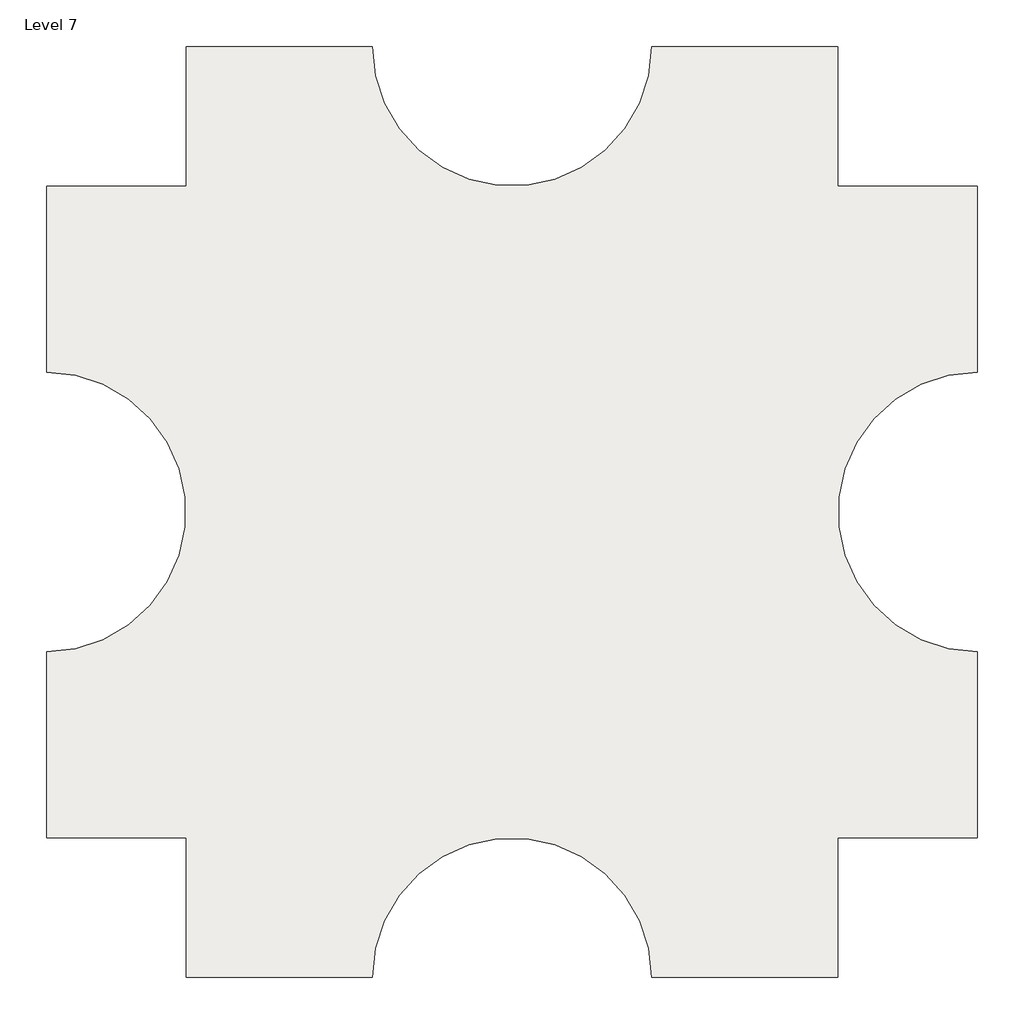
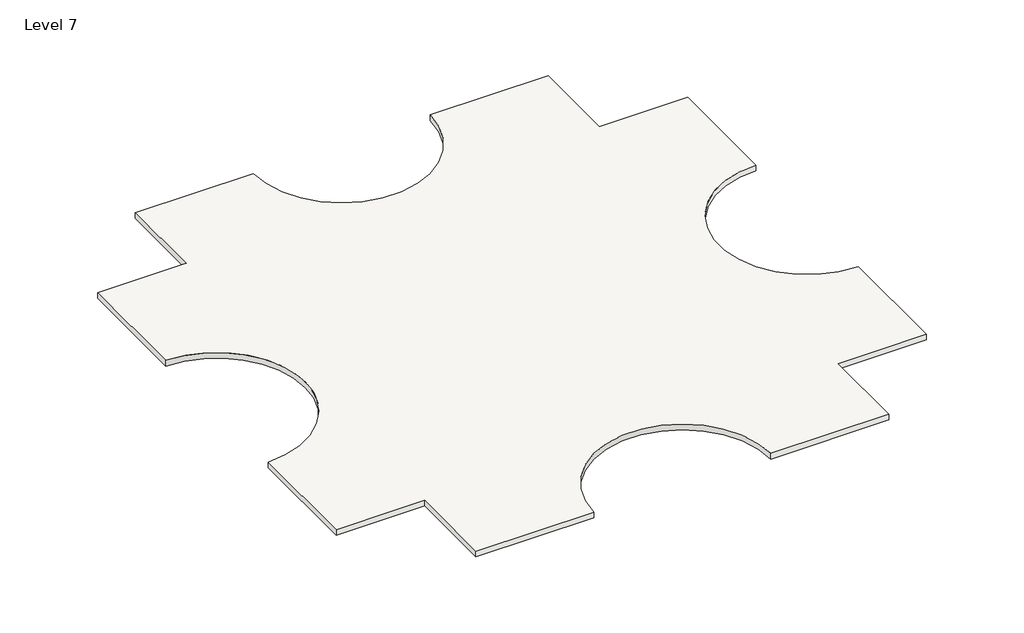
# One storey: 1 slab.
"""IFC4 building model written with IfcOpenShell, lengths in millimetres."""

import ifcopenshell
import ifcopenshell.guid

model = None  # the IFC model being written
_history = None  # IfcOwnerHistory: only IFC2X3 demands one
_inside = {}  # id of a spatial element -> (the spatial element, [elements in it])
_under = {}  # id of a project, library or spatial element -> (it, [spatial elements below it])
_declared = {}  # id of a project -> (the project, [libraries it declares])
_typed = {}  # id of a type object -> (the type object, [elements of that type])
_made_of = {}  # id of a material, layer set ... -> (it, [elements and type objects made of it])


def new_model(schema):
    """Start an empty IFC model of exactly this schema.

    Asked for "IFC4X3", IfcOpenShell would pick the latest addendum, in which some entities
    have other attributes; the version numbers below select the first issue.
    IFC2X3 requires an IfcOwnerHistory on every rooted entity: one is made here for all.
    """
    global model, _history
    if schema == "IFC4X3":
        model = ifcopenshell.file(schema_version=(4, 3, 0, 0))
    else:
        model = ifcopenshell.file(schema=schema)
    _inside.clear()
    _under.clear()
    _declared.clear()
    _typed.clear()
    _made_of.clear()
    _history = None
    if model.schema == "IFC2X3":
        org = make("IfcOrganization", Name="unknown")
        user = make(
            "IfcPersonAndOrganization",
            ThePerson=make("IfcPerson", FamilyName="unknown"),
            TheOrganization=org,
        )
        app = make(
            "IfcApplication",
            ApplicationDeveloper=org,
            Version="unknown",
            ApplicationFullName="unknown",
            ApplicationIdentifier="unknown",
        )
        _history = make(
            "IfcOwnerHistory",
            OwningUser=user,
            OwningApplication=app,
            ChangeAction="ADDED",
            CreationDate=0,
        )
    return model


def make(cls, **values):
    """One entity of the class cls with the attributes given. An attribute that is None is left unset."""
    return model.create_entity(
        cls, **{name: value for name, value in values.items() if value is not None}
    )


def rooted(cls, **values):
    """An entity with a GlobalId (a new one), such as an element, a storey or a relation."""
    return make(cls, GlobalId=ifcopenshell.guid.new(), OwnerHistory=_history, **values)


def si_unit(unit_type, name, prefix=None):
    """IfcSIUnit, for example si_unit("LENGTHUNIT", "METRE", prefix="MILLI")."""
    return make("IfcSIUnit", UnitType=unit_type, Prefix=prefix, Name=name)


def assignment(units):
    """IfcUnitAssignment: the units of a project."""
    return None if units is None else make("IfcUnitAssignment", Units=units)


def point(xyz):
    """IfcCartesianPoint."""
    return None if xyz is None else make("IfcCartesianPoint", Coordinates=xyz)


def direction(xyz):
    """IfcDirection."""
    return None if xyz is None else make("IfcDirection", DirectionRatios=xyz)


def frame(location, z_axis=None, x_axis=None):
    """IfcAxis2Placement3D, a coordinate frame: its origin and axes. An axis left out is left unset."""
    return make(
        "IfcAxis2Placement3D",
        Location=point(location),
        Axis=direction(z_axis),
        RefDirection=direction(x_axis),
    )


def frame_2d(location, x_axis=None):
    """IfcAxis2Placement2D, a coordinate frame in the plane: its origin and x axis."""
    return make(
        "IfcAxis2Placement2D", Location=point(location), RefDirection=direction(x_axis)
    )


def origin():
    """The frame at (0, 0, 0) with its axes left unset."""
    return frame((0.0, 0.0, 0.0))


def place(relative_to, where):
    """IfcLocalPlacement: puts the frame where relative to a parent placement (None: the world)."""
    return make(
        "IfcLocalPlacement", PlacementRelTo=relative_to, RelativePlacement=where
    )


def context(
    kind, dimensions, precision=None, world=None, true_north=None, identifier=None
):
    """IfcGeometricRepresentationContext, for example the 3D "Model" context."""
    return make(
        "IfcGeometricRepresentationContext",
        ContextIdentifier=identifier,
        ContextType=kind,
        CoordinateSpaceDimension=dimensions,
        Precision=precision,
        WorldCoordinateSystem=world,
        TrueNorth=true_north,
    )


def project(units=None, contexts=None):
    """IfcProject with its units and contexts."""
    return rooted(
        "IfcProject",
        Name="project",
        RepresentationContexts=contexts,
        UnitsInContext=assignment(units),
    )


def spatial(cls, under=None, at=None, **own):
    """A site, building, storey or space (cls), placed at a placement, below another one or the project."""
    s = rooted(cls, ObjectPlacement=at, **own)
    if under is not None:
        _under.setdefault(under.id(), (under, []))[1].append(s)
    return s


def polyline(points):
    """IfcPolyline through the points."""
    return make("IfcPolyline", Points=[point(p) for p in points])


def circle_curve(where, radius):
    """IfcCircle in the frame where."""
    return make("IfcCircle", Position=where, Radius=radius)


def trimmed(basis, trim1, trim2, sense, master):
    """IfcTrimmedCurve: the piece of a basis curve between two trims."""
    return make(
        "IfcTrimmedCurve",
        BasisCurve=basis,
        Trim1=trim1,
        Trim2=trim2,
        SenseAgreement=sense,
        MasterRepresentation=master,
    )


def segment(curve, same_sense, transition):
    """IfcCompositeCurveSegment."""
    return make(
        "IfcCompositeCurveSegment",
        Transition=transition,
        SameSense=same_sense,
        ParentCurve=curve,
    )


def composite_curve(segments, self_intersect=None):
    """IfcCompositeCurve: segments joined end to end."""
    return make("IfcCompositeCurve", Segments=segments, SelfIntersect=self_intersect)


def outline(outer, holes=None, kind="AREA"):
    """IfcArbitraryClosedProfileDef: a profile drawn as a closed curve; with holes, ...WithVoids."""
    if holes is None:
        return make("IfcArbitraryClosedProfileDef", ProfileType=kind, OuterCurve=outer)
    return make(
        "IfcArbitraryProfileDefWithVoids",
        ProfileType=kind,
        OuterCurve=outer,
        InnerCurves=holes,
    )


def extrude(swept, where, along, depth):
    """IfcExtrudedAreaSolid: the profile swept, set in the frame where, extruded along a direction by depth."""
    return make(
        "IfcExtrudedAreaSolid",
        SweptArea=swept,
        Position=where,
        ExtrudedDirection=direction(along),
        Depth=depth,
    )


def shape(context_of_items, identifier, shape_type, items):
    """IfcShapeRepresentation: the items that make up one representation, for example the "Body"."""
    return make(
        "IfcShapeRepresentation",
        ContextOfItems=context_of_items,
        RepresentationIdentifier=identifier,
        RepresentationType=shape_type,
        Items=items,
    )


def made_of(thing, what):
    """Note that an element or type object is made of a material, layer set ...; save() writes the relation."""
    if what is not None:
        _made_of.setdefault(what.id(), (what, []))[1].append(thing)
    return thing


def element(
    cls,
    number,
    at=None,
    inside=None,
    cuts=None,
    type_object=None,
    material=None,
    context=None,
    identifier="Body",
    shape_type=None,
    held_by="IfcProductDefinitionShape",
    body=None,
    shapes=None,
    **own,
):
    """One element of the class cls, such as IfcWall. Its Tag is "e" and its number.

    at: its placement. inside: the storey or other place that contains it. cuts: it is an
    opening in that element (IfcRelVoidsElement). A single representation is given by context,
    identifier, shape_type and body (its items); several are given by shapes. held_by: the class
    of the entity that holds the representations. save() writes the other relations.
    """
    e = rooted(cls, Tag="e%d" % number, ObjectPlacement=at, **own)
    if body is not None:
        shapes = [shape(context, identifier, shape_type, body)]
    if shapes is not None:
        e.Representation = make(held_by, Representations=shapes)
    if inside is not None:
        _inside.setdefault(inside.id(), (inside, []))[1].append(e)
    if cuts is not None:
        rooted(
            "IfcRelVoidsElement", RelatingBuildingElement=cuts, RelatedOpeningElement=e
        )
    if type_object is not None:
        _typed.setdefault(type_object.id(), (type_object, []))[1].append(e)
    return made_of(e, material)


def aggregate(whole, parts):
    """IfcRelAggregates: a whole, such as a stair, and the parts it consists of."""
    return rooted("IfcRelAggregates", RelatingObject=whole, RelatedObjects=parts)


def save(model, path):
    """Write the relations noted so far, then the file.

    IfcRelAggregates (storeys below a building ...), IfcRelContainedInSpatialStructure (elements
    in a storey), IfcRelDefinesByType, IfcRelAssociatesMaterial and IfcRelDeclares: one each for
    every whole, place, type object, material and project.
    """
    for whole, parts in _under.values():
        aggregate(whole, parts)
    for where, things in _inside.values():
        rooted(
            "IfcRelContainedInSpatialStructure",
            RelatedElements=things,
            RelatingStructure=where,
        )
    for kind, things in _typed.values():
        rooted("IfcRelDefinesByType", RelatedObjects=things, RelatingType=kind)
    for what, things in _made_of.values():
        rooted("IfcRelAssociatesMaterial", RelatedObjects=things, RelatingMaterial=what)
    for by, libraries in _declared.values():
        rooted("IfcRelDeclares", RelatingContext=by, RelatedDefinitions=libraries)
    model.write(path)


model = new_model("IFC4")

# Units and contexts
model_context = context("Model", 3, world=origin())
ifc_project = project(units=[si_unit("LENGTHUNIT", "METRE", prefix="MILLI")], contexts=[model_context])

# Site, building, storey
site = spatial("IfcSite", under=ifc_project)
building = spatial("IfcBuilding", under=site)
storey = spatial("IfcBuildingStorey", under=building, Name="Level 7", Elevation=18288.0)

# Slab
placement = place(None, origin())
element("IfcSlab", 1, ObjectType="Generic - 12\"", at=placement, inside=storey, context=model_context, shape_type="SweptSolid", body=[
    extrude(outline(composite_curve([segment(polyline([(-7150.3629456, 4479.6634547), (-7150.3629456, 9051.6634547), (-1054.3629456, 9051.6634547)]), True, "CONTINUOUS"), segment(trimmed(circle_curve(frame_2d((3517.6370544, 9051.6634547)), 4572.0), [point((-1054.3629456, 9051.6634547))], [point((8089.6370544, 9051.6634547))], True, "CARTESIAN"), True, "CONTINUOUS"), segment(polyline([(8089.6370544, 9051.6634547), (14185.6370544, 9051.6634547), (14185.6370544, 4479.6634547), (18757.6370544, 4479.6634547), (18757.6370544, -1616.3365453)]), True, "CONTINUOUS"), segment(trimmed(circle_curve(frame_2d((18757.6370544, -6188.3365453)), 4572.0), [point((18757.6370544, -1616.3365453))], [point((18757.6370544, -10760.3365453))], True, "CARTESIAN"), True, "CONTINUOUS"), segment(polyline([(18757.6370544, -10760.3365453), (18757.6370544, -16856.3365453), (14185.6370544, -16856.3365453), (14185.6370544, -21428.3365453), (8089.6370544, -21428.3365453)]), True, "CONTINUOUS"), segment(trimmed(circle_curve(frame_2d((3517.6370544, -21428.3365453)), 4572.0), [point((8089.6370544, -21428.3365453))], [point((-1054.3629456, -21428.3365453))], True, "CARTESIAN"), True, "CONTINUOUS"), segment(polyline([(-1054.3629456, -21428.3365453), (-7150.3629456, -21428.3365453), (-7150.3629456, -16856.3365453), (-11722.3629456, -16856.3365453), (-11722.3629456, -10760.3365453)]), True, "CONTINUOUS"), segment(trimmed(circle_curve(frame_2d((-11722.3629456, -6188.3365453)), 4572.0), [point((-11722.3629456, -10760.3365453))], [point((-11722.3629456, -1616.3365453))], True, "CARTESIAN"), True, "CONTINUOUS"), segment(polyline([(-11722.3629456, -1616.3365453), (-11722.3629456, 4479.6634547), (-7150.3629456, 4479.6634547)]), True, "CONTINUOUS")], self_intersect=False)), frame((0.0, 0.0, 17983.2), z_axis=(0.0, 0.0, 1.0), x_axis=(1.0, 0.0, 0.0)), (0.0, 0.0, 1.0), 304.8),
])

save(model, "model.ifc")
